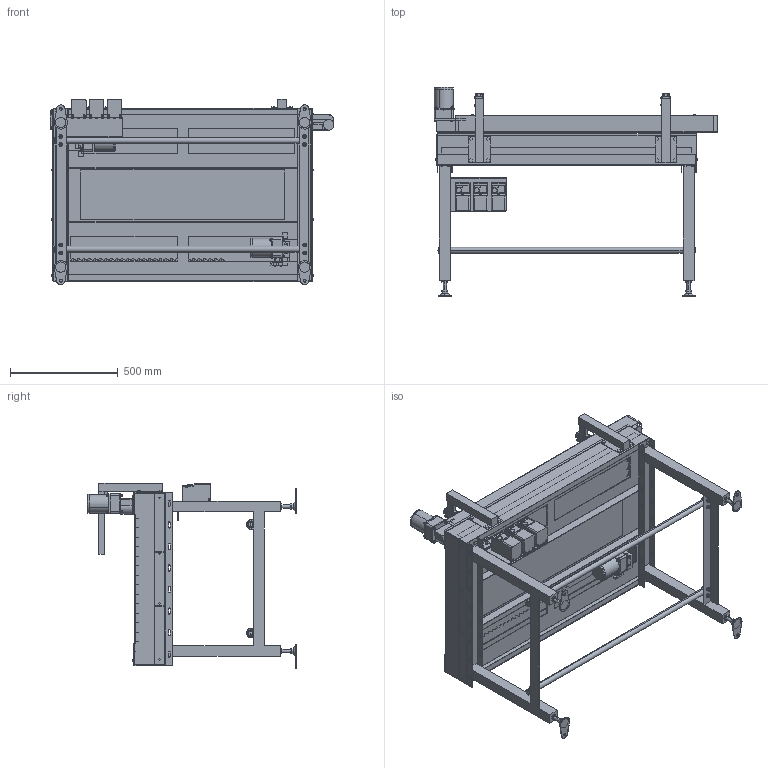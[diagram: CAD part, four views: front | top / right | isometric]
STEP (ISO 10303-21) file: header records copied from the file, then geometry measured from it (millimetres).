
FILE_DESCRIPTION( (''), '2;1');
FILE_NAME ('SGA-304x3-600-L-IVH-15-C.stp','2025-01-31T09:29:21',(''),(''),'spGate 20.6.2 (****-****-****-****)','','');
FILE_SCHEMA (('AUTOMOTIVE_DESIGN'));
Length unit declared in the file: millimetre
Products named in the file (94): NewModel; TEMP_X_T-prt0; TEMP_X_T-prt1; TEMP_X_T-prt2; TEMP_X_T-prt3; TEMP_X_T-prt4; TEMP_X_T-prt5; TEMP_X_T-prt6; TEMP_X_T-prt7; TEMP_X_T-prt8; TEMP_X_T-prt9; TEMP_X_T-prt10; TEMP_X_T-prt11; TEMP_X_T-prt12; TEMP_X_T-prt13; TEMP_X_T-prt14; TEMP_X_T-prt15; TEMP_X_T-prt16; TEMP_X_T-prt17; TEMP_X_T-prt18; TEMP_X_T-prt19; TEMP_X_T-prt20; TEMP_X_T-prt21; TEMP_X_T-prt22; TEMP_X_T-prt23; TEMP_X_T-prt24; TEMP_X_T-prt25; TEMP_X_T-prt26; TEMP_X_T-prt27; TEMP_X_T-prt28; TEMP_X_T-prt29; TEMP_X_T-prt30; TEMP_X_T-prt31; TEMP_X_T-prt32; TEMP_X_T-prt33; TEMP_X_T-prt34; TEMP_X_T-prt35; TEMP_X_T-prt36; TEMP_X_T-prt37; TEMP_X_T-prt38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
Assembly tree (93 placements, depth 2):
  NewModel
    TEMP_X_T-prt0
    TEMP_X_T-prt1
    TEMP_X_T-prt2
    TEMP_X_T-prt3
    TEMP_X_T-prt4
    TEMP_X_T-prt5
    TEMP_X_T-prt6
    TEMP_X_T-prt7
    TEMP_X_T-prt8
    TEMP_X_T-prt9
    TEMP_X_T-prt10
    TEMP_X_T-prt11
    TEMP_X_T-prt12
    TEMP_X_T-prt13
    TEMP_X_T-prt14
    TEMP_X_T-prt15
    TEMP_X_T-prt16
    TEMP_X_T-prt17
    TEMP_X_T-prt18
    TEMP_X_T-prt19
    TEMP_X_T-prt20
    TEMP_X_T-prt21
    TEMP_X_T-prt22
    TEMP_X_T-prt23
    TEMP_X_T-prt24
    TEMP_X_T-prt25
    TEMP_X_T-prt26
    TEMP_X_T-prt27
    TEMP_X_T-prt28
    TEMP_X_T-prt29
    TEMP_X_T-prt30
    TEMP_X_T-prt31
    TEMP_X_T-prt32
    TEMP_X_T-prt33
    TEMP_X_T-prt34
    TEMP_X_T-prt35
    TEMP_X_T-prt36
    TEMP_X_T-prt37
    TEMP_X_T-prt38
    TEMP_X_T-prt39
    TEMP_X_T-prt40
    TEMP_X_T-prt41
    TEMP_X_T-prt42
    TEMP_X_T-prt43
    TEMP_X_T-prt44
    TEMP_X_T-prt45
    TEMP_X_T-prt46
    TEMP_X_T-prt47
    TEMP_X_T-prt48
    TEMP_X_T-prt49
    TEMP_X_T-prt50
    TEMP_X_T-prt51
    TEMP_X_T-prt52
    TEMP_X_T-prt53
    TEMP_X_T-prt54
    TEMP_X_T-prt55
    TEMP_X_T-prt56
    TEMP_X_T-prt57
    TEMP_X_T-prt58
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Bounding box: 1315.9 x 969.4 x 860 mm (x, y, z)
Volume: 34846516.1 mm3; surface area: 8158331.7 mm2
Topology: 93 solids, 93 shells, 3500 faces, 8726 edges, 5601 vertices
Faces by surface type: plane 2296, cylinder 825, bspline 363, sphere 16
Entity records: 180402 total; most frequent: CARTESIAN_POINT 25932, ORIENTED_EDGE 17356, DIRECTION 16219, COLOUR_RGB 12271, PRESENTATION_STYLE_ASSIGNMENT 12271, STYLED_ITEM 12271, EDGE_CURVE 8678, DRAUGHTING_PRE_DEFINED_CURVE_FONT 8678
